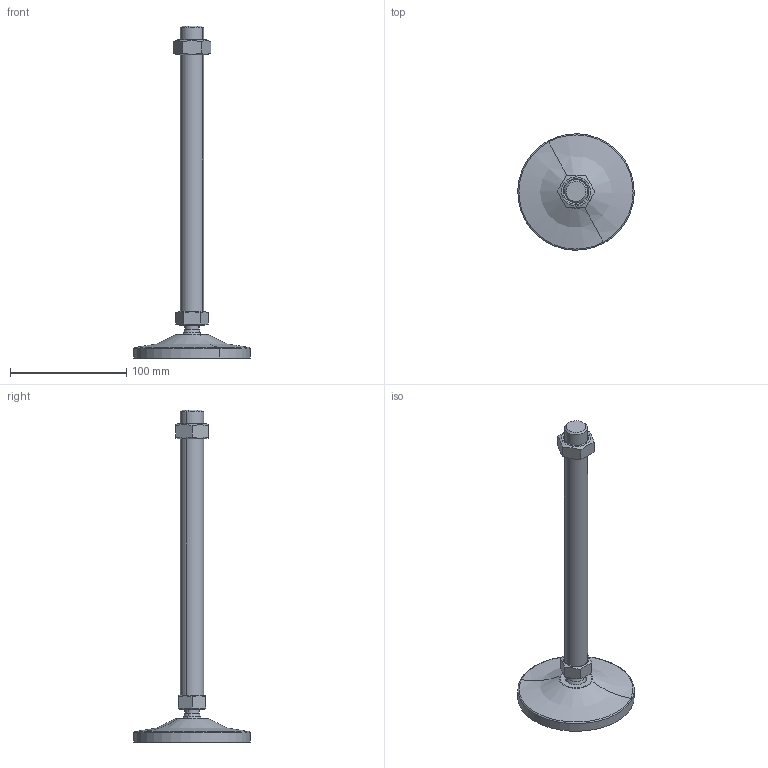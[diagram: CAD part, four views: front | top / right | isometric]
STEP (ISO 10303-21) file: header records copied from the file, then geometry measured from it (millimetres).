
FILE_DESCRIPTION(('CATIA V5 STEP Exchange'),'2;1');
FILE_NAME('C:\Users\ALI OZGUN\Desktop\alhan\saplama2\560102629.stp','2017-09-21T10:35:11+00:00',('none'),('none'),'CATIA Version 5 Release 21 GA (IN-10)','CATIA V5 STEP AP203','none');
FILE_SCHEMA(('CONFIG_CONTROL_DESIGN'));
Length unit declared in the file: millimetre
Products named in the file (1): 560102629
Bounding box: 99.97 x 99.97 x 285 mm (x, y, z)
Volume: 151654.4 mm3; surface area: 41198 mm2
Topology: 3 solids, 3 shells, 60 faces, 136 edges, 83 vertices
Faces by surface type: plane 20, cone 16, cylinder 14, torus 4, revolution 4, sphere 2
Entity records: 1878 total; most frequent: CARTESIAN_POINT 636, ORIENTED_EDGE 268, DIRECTION 185, EDGE_CURVE 134, AXIS2_PLACEMENT_3D 99, VERTEX_POINT 83, EDGE_LOOP 67, ADVANCED_FACE 60
